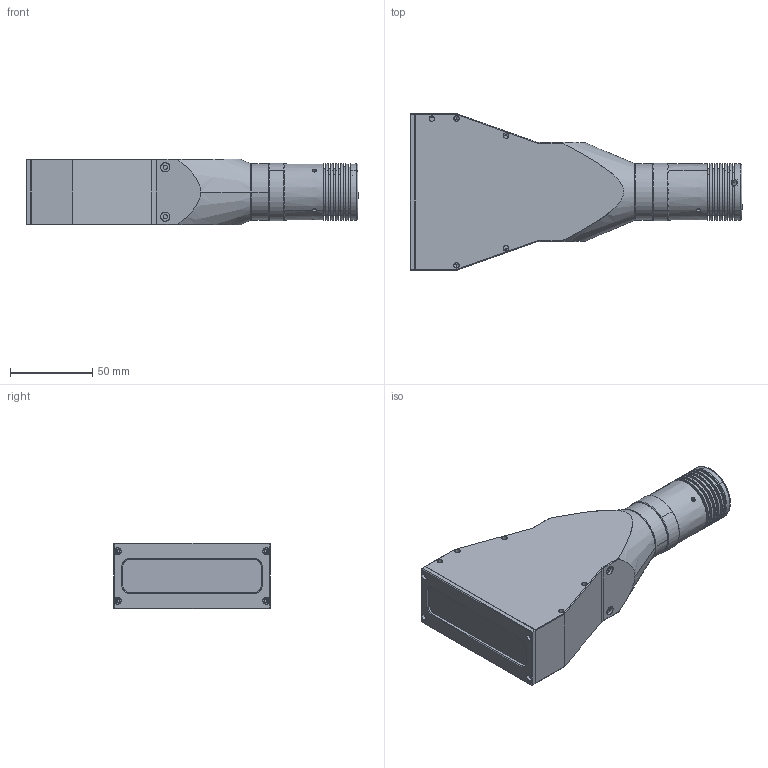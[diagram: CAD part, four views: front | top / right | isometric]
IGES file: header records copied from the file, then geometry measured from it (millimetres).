
Start section: SolidWorks IGES file using analytic representation for surfaces
Global section: file name: D:\BaiduSyncdisk\1-莉こ  2022-new\LTCM- 晦す噩芛源偶\LTCL-72\3D\LTCL-72.IGS; native system: SolidWorks 2017; preprocessor: SolidWorks 2017; author: Coolens; date: 221123.205415; units: millimetre
Bounding box: 201.35 x 95 x 40 mm (x, y, z)
Surface area: 50038.9 mm2 (no closed solid volume)
Topology: 0 solids, 0 shells, 387 faces, 6837 edges, 6816 vertices
Faces by surface type: revolution 228, bspline 159
